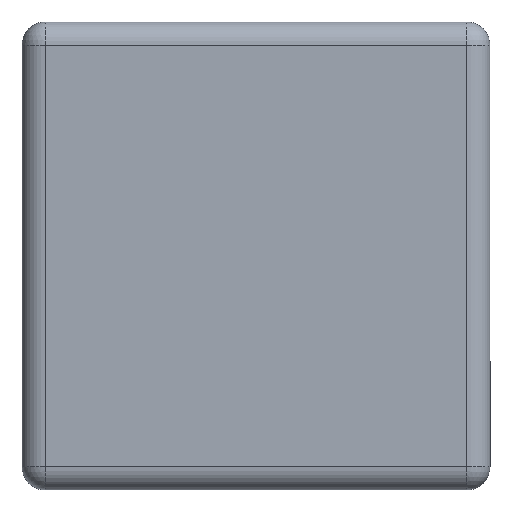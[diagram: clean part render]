
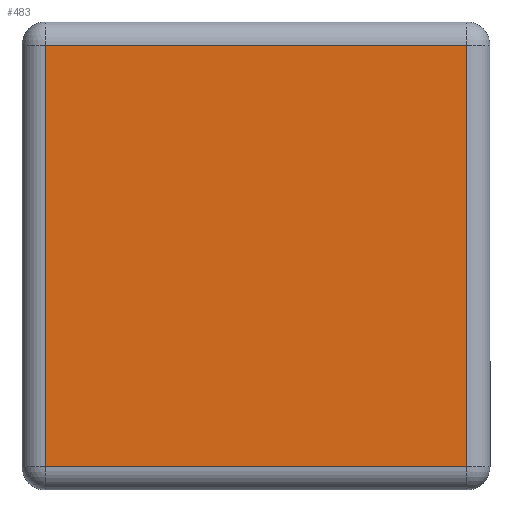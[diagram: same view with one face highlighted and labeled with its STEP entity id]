
A CAD part, top view. The second image highlights one B-rep face of the part: STEP entity #483.
In plain terms, the highlighted planar face has unit normal (0, 0, 1).
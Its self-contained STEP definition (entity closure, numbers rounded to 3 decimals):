
#5 = CARTESIAN_POINT ( 'NONE',  ( 27., 27., 3. ) ) ;
#20 = DIRECTION ( 'NONE',  ( 0., 1., 0. ) ) ;
#21 = VERTEX_POINT ( 'NONE', #586 ) ;
#32 = VECTOR ( 'NONE', #20, 1000. ) ;
#48 = DIRECTION ( 'NONE',  ( 1., 0., 0. ) ) ;
#59 = EDGE_CURVE ( 'NONE', #241, #115, #325, .T. ) ;
#60 = PLANE ( 'NONE',  #342 ) ;
#66 = CARTESIAN_POINT ( 'NONE',  ( -27., 27., 3. ) ) ;
#74 = VERTEX_POINT ( 'NONE', #706 ) ;
#92 = CARTESIAN_POINT ( 'NONE',  ( 27., -27., 3. ) ) ;
#115 = VERTEX_POINT ( 'NONE', #484 ) ;
#136 = DIRECTION ( 'NONE',  ( -1., 0., 0. ) ) ;
#161 = CARTESIAN_POINT ( 'NONE',  ( -27., -27., 3. ) ) ;
#195 = LINE ( 'NONE', #66, #248 ) ;
#202 = ORIENTED_EDGE ( 'NONE', *, *, #59, .T. ) ;
#241 = VERTEX_POINT ( 'NONE', #161 ) ;
#243 = LINE ( 'NONE', #627, #32 ) ;
#248 = VECTOR ( 'NONE', #136, 1000. ) ;
#286 = LINE ( 'NONE', #504, #722 ) ;
#313 = VECTOR ( 'NONE', #432, 1000. ) ;
#314 = ORIENTED_EDGE ( 'NONE', *, *, #338, .T. ) ;
#325 = LINE ( 'NONE', #92, #313 ) ;
#338 = EDGE_CURVE ( 'NONE', #21, #241, #286, .T. ) ;
#340 = EDGE_LOOP ( 'NONE', ( #642, #718, #314, #202 ) ) ;
#342 = AXIS2_PLACEMENT_3D ( 'NONE', #5, #656, #48 ) ;
#432 = DIRECTION ( 'NONE',  ( 1., 0., 0. ) ) ;
#483 = ADVANCED_FACE ( 'NONE', ( #568 ), #60, .T. ) ;
#484 = CARTESIAN_POINT ( 'NONE',  ( 27., -27., 3. ) ) ;
#504 = CARTESIAN_POINT ( 'NONE',  ( -27., -27., 3. ) ) ;
#554 = EDGE_CURVE ( 'NONE', #74, #21, #195, .T. ) ;
#559 = EDGE_CURVE ( 'NONE', #115, #74, #243, .T. ) ;
#568 = FACE_OUTER_BOUND ( 'NONE', #340, .T. ) ;
#586 = CARTESIAN_POINT ( 'NONE',  ( -27., 27., 3. ) ) ;
#627 = CARTESIAN_POINT ( 'NONE',  ( 27., 27., 3. ) ) ;
#642 = ORIENTED_EDGE ( 'NONE', *, *, #559, .T. ) ;
#656 = DIRECTION ( 'NONE',  ( 0., 0., 1. ) ) ;
#706 = CARTESIAN_POINT ( 'NONE',  ( 27., 27., 3. ) ) ;
#718 = ORIENTED_EDGE ( 'NONE', *, *, #554, .T. ) ;
#722 = VECTOR ( 'NONE', #729, 1000. ) ;
#729 = DIRECTION ( 'NONE',  ( 0., -1., 0. ) ) ;
